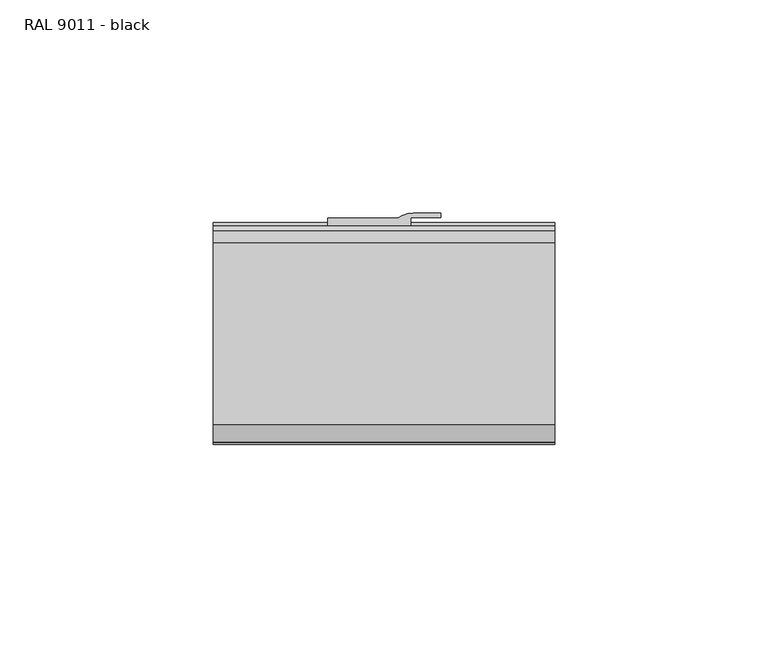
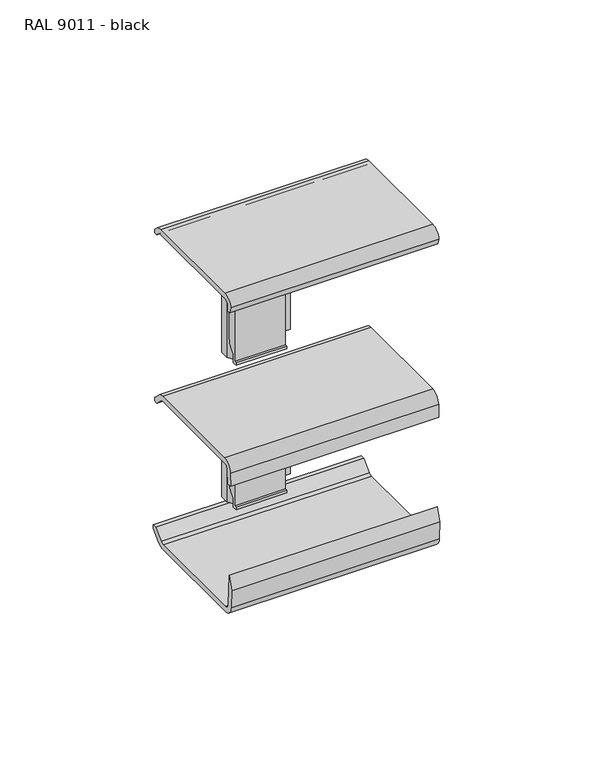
"""IFC4 building model written with IfcOpenShell, lengths in millimetres: cable carrier fitting geometry, Electrical_Installations_Hager_GBA-Coupling-Piece : RAL 9011 - black."""

from ifc_helpers import new_model, si_unit, point, frame, frame_2d, origin, place, context, project, spatial, polyline, circle_curve, trimmed, segment, composite_curve, outline, extrude, source, transform, mapped, element, save


def ral_9011_black_cd5e6a1d(model_context):
    return source(origin(), model_context, "Body", "SweptSolid", [
        extrude(outline(composite_curve([segment(polyline([(19.5299546, -13.203699), (19.5299546, -12.403699), (21.5299546, -12.403699), (21.5299546, -16.3274443)]), True, "CONTINUOUS"), segment(trimmed(circle_curve(frame_2d((18.0575569, -21.3974122)), 6.1450891), [point((21.5299546, -16.3274443))], [point((24.1862046, -20.9481933))], False, "CARTESIAN"), True, "CONTINUOUS"), segment(polyline([(24.1862046, -20.9481933), (24.1862046, -48.0333404)]), True, "CONTINUOUS"), segment(trimmed(circle_curve(frame_2d((19.0558691, -48.0333404)), 5.1303355), [point((24.1862046, -48.0333404))], [point((21.5299546, -52.5276972))], False, "CARTESIAN"), True, "CONTINUOUS"), segment(polyline([(21.5299546, -52.5276972), (21.5299546, -56.244324), (19.763323, -56.244324), (19.763323, -55.2391379), (20.7299546, -55.2391379), (20.7299546, -13.203699), (19.5299546, -13.203699)]), True, "CONTINUOUS")], self_intersect=False)), frame((-0.7125, 0.0, 0.0), z_axis=(1.0, 0.0, 0.0), x_axis=(0.0, 1.0, 0.0)), (0.0, 0.0, 1.0), 19.5),
        extrude(outline(composite_curve([segment(polyline([(-0.7125, 29.3862046), (15.6888516, 29.3862046)]), True, "CONTINUOUS"), segment(trimmed(circle_curve(frame_2d((19.3875, 24.2862046)), 6.3), [point((15.6888516, 29.3862046))], [point((19.3875, 30.5862046))], False, "CARTESIAN"), True, "CONTINUOUS"), segment(polyline([(19.3875, 30.5862046), (25.7875, 30.5862046), (25.7875, 29.5862046), (18.7875, 29.5862046), (18.7875, 26.0862046), (17.5173294, 23.8862046), (16.234474, 23.8862046), (16.234474, 26.0862046), (1.791584, 26.0862046), (1.791584, 23.8862046), (0.5576706, 23.8862046), (-0.7125, 26.0862046), (-0.7125, 29.3862046)]), True, "CONTINUOUS")], self_intersect=False)), frame((0.0, 0.0, -56.781824), z_axis=(0.0, 0.0, 1.0), x_axis=(1.0, 0.0, 0.0)), (0.0, 0.0, 1.0), 45.0),
        extrude(outline(composite_curve([segment(polyline([(19.5299546, 45.459949), (19.5299546, 46.259949), (21.5299546, 46.259949), (21.5299546, 42.3362036)]), True, "CONTINUOUS"), segment(trimmed(circle_curve(frame_2d((18.0575569, 37.2662357)), 6.1450891), [point((21.5299546, 42.3362036))], [point((24.1862046, 37.7154546))], False, "CARTESIAN"), True, "CONTINUOUS"), segment(polyline([(24.1862046, 37.7154546), (24.1862046, 10.6303075)]), True, "CONTINUOUS"), segment(trimmed(circle_curve(frame_2d((19.0558691, 10.6303075)), 5.1303355), [point((24.1862046, 10.6303075))], [point((21.5299546, 6.1359507))], False, "CARTESIAN"), True, "CONTINUOUS"), segment(polyline([(21.5299546, 6.1359507), (21.5299546, 2.419324), (19.763323, 2.419324), (19.763323, 3.42451), (20.7299546, 3.42451), (20.7299546, 45.459949), (19.5299546, 45.459949)]), True, "CONTINUOUS")], self_intersect=False)), frame((-0.7125, 0.0, 0.0), z_axis=(1.0, 0.0, 0.0), x_axis=(0.0, 1.0, 0.0)), (0.0, 0.0, 1.0), 19.5),
        extrude(outline(composite_curve([segment(polyline([(-0.7125, 29.3862046), (15.6888516, 29.3862046)]), True, "CONTINUOUS"), segment(trimmed(circle_curve(frame_2d((19.3875, 24.2862046)), 6.3), [point((15.6888516, 29.3862046))], [point((19.3875, 30.5862046))], False, "CARTESIAN"), True, "CONTINUOUS"), segment(polyline([(19.3875, 30.5862046), (25.7875, 30.5862046), (25.7875, 29.5862046), (18.7875, 29.5862046), (18.7875, 26.0862046), (17.5173294, 23.8862046), (16.234474, 23.8862046), (16.234474, 26.0862046), (1.791584, 26.0862046), (1.791584, 23.8862046), (0.5576706, 23.8862046), (-0.7125, 26.0862046), (-0.7125, 29.3862046)]), True, "CONTINUOUS")], self_intersect=False)), frame((0.0, 0.0, 1.881824), z_axis=(0.0, 0.0, 1.0), x_axis=(1.0, 0.0, 0.0)), (0.0, 0.0, 1.0), 45.0),
        extrude(outline(composite_curve([segment(trimmed(circle_curve(frame_2d((-18.8633998, -6.3705402)), 2.0393871), [point((-18.8633998, -4.331153))], [point((-20.899992, -6.2638069))], True, "CARTESIAN"), True, "CONTINUOUS"), segment(polyline([(-20.899992, -6.2638069), (-21.1703996, -11.4234908), (-23.1676586, -11.3188188), (-22.8959309, -6.1339451)]), True, "CONTINUOUS"), segment(trimmed(circle_curve(frame_2d((-18.8886242, -6.3439592)), 4.0128062), [point((-22.8959309, -6.1339451))], [point((-18.8886242, -2.331153))], False, "CARTESIAN"), True, "CONTINUOUS"), segment(polyline([(-18.8886242, -2.331153), (22.3397777, -2.331153)]), True, "CONTINUOUS"), segment(trimmed(circle_curve(frame_2d((22.3397777, -6.0464007)), 3.7152477), [point((22.3397777, -2.331153))], [point((24.9668545, -3.4193239))], False, "CARTESIAN"), True, "CONTINUOUS"), segment(polyline([(24.9668545, -3.4193239), (27.2562917, -5.7087611)]), True, "CONTINUOUS"), segment(trimmed(circle_curve(frame_2d((26.5465978, -6.418455)), 1.0036587), [point((27.2562917, -5.7087611))], [point((27.5502565, -6.418455))], False, "CARTESIAN"), True, "CONTINUOUS"), segment(polyline([(27.5502565, -6.418455), (27.5502565, -7.331153), (26.0502565, -7.331153), (23.6221118, -4.9030083)]), True, "CONTINUOUS"), segment(trimmed(circle_curve(frame_2d((22.241531, -6.2835892)), 1.9524362), [point((23.6221118, -4.9030083))], [point((22.241531, -4.331153))], True, "CARTESIAN"), True, "CONTINUOUS"), segment(polyline([(22.241531, -4.331153), (-18.8633998, -4.331153)]), True, "CONTINUOUS")], self_intersect=False)), frame((-27.5, 0.0, 0.0), z_axis=(1.0, 0.0, 0.0), x_axis=(0.0, 1.0, 0.0)), (0.0, 0.0, 1.0), 80.0),
        extrude(outline(composite_curve([segment(trimmed(circle_curve(frame_2d((23.5218294, 60.7)), 2.0), [point((24.936043, 62.1142136))], [point((23.5218294, 62.7))], True, "CARTESIAN"), True, "CONTINUOUS"), segment(polyline([(23.5218294, 62.7), (-19.1007768, 62.7)]), True, "CONTINUOUS"), segment(trimmed(circle_curve(frame_2d((-19.1007768, 60.6971035)), 2.0028965), [point((-19.1007768, 62.7))], [point((-21.1036733, 60.6971035))], True, "CARTESIAN"), True, "CONTINUOUS"), segment(polyline([(-21.1036733, 60.6971035), (-21.2133917, 58.6035509), (-22.3130457, 58.6611813), (-23.0757368, 61.1159668)]), True, "CONTINUOUS"), segment(trimmed(circle_curve(frame_2d((-19.1163293, 60.720935)), 3.979065), [point((-23.0757368, 61.1159668))], [point((-19.1163293, 64.7))], False, "CARTESIAN"), True, "CONTINUOUS"), segment(polyline([(-19.1163293, 64.7), (23.5218294, 64.7)]), True, "CONTINUOUS"), segment(trimmed(circle_curve(frame_2d((23.5218294, 60.7)), 4.0), [point((23.5218294, 64.7))], [point((26.3502565, 63.5284271))], False, "CARTESIAN"), True, "CONTINUOUS"), segment(polyline([(26.3502565, 63.5284271), (27.5502565, 62.3284271), (27.5502565, 61.0), (26.0502565, 61.0), (24.936043, 62.1142136)]), True, "CONTINUOUS")], self_intersect=False)), frame((-27.5, 0.0, 0.0), z_axis=(1.0, 0.0, 0.0), x_axis=(0.0, 1.0, 0.0)), (0.0, 0.0, 1.0), 80.0),
        extrude(outline(composite_curve([segment(polyline([(26.903365, -58.3), (28.403365, -58.3), (28.403365, -59.6284271), (24.703365, -63.3284271)]), True, "CONTINUOUS"), segment(trimmed(circle_curve(frame_2d((21.8749378, -60.5)), 4.0), [point((24.703365, -63.3284271))], [point((21.8749378, -64.5))], False, "CARTESIAN"), True, "CONTINUOUS"), segment(polyline([(21.8749378, -64.5), (-19.4152919, -64.5)]), True, "CONTINUOUS"), segment(trimmed(circle_curve(frame_2d((-19.4152919, -60.6150555)), 3.8849445), [point((-19.4152919, -64.5))], [point((-23.3002364, -60.6150555))], False, "CARTESIAN"), True, "CONTINUOUS"), segment(polyline([(-23.3002364, -60.6150555), (-23.6789386, -53.3889857), (-21.9407516, -48.3409241), (-21.3036733, -60.4971035)]), True, "CONTINUOUS"), segment(trimmed(circle_curve(frame_2d((-19.3007768, -60.4971035)), 2.0028965), [point((-21.3036733, -60.4971035))], [point((-19.3007768, -62.5))], True, "CARTESIAN"), True, "CONTINUOUS"), segment(polyline([(-19.3007768, -62.5), (21.8749378, -62.5)]), True, "CONTINUOUS"), segment(trimmed(circle_curve(frame_2d((21.8749378, -60.5)), 2.0), [point((21.8749378, -62.5))], [point((23.2891514, -61.9142136))], True, "CARTESIAN"), True, "CONTINUOUS"), segment(polyline([(23.2891514, -61.9142136), (26.903365, -58.3)]), True, "CONTINUOUS")], self_intersect=False)), frame((-27.5, 0.0, 0.0), z_axis=(1.0, 0.0, 0.0), x_axis=(0.0, 1.0, 0.0)), (0.0, 0.0, 1.0), 80.0),
    ])


if __name__ == "__main__":
    model = new_model("IFC4")
    model_context = context("Model", 3, world=origin())
    ifc_project = project(units=[si_unit("LENGTHUNIT", "METRE", prefix="MILLI")], contexts=[model_context])
    site = spatial("IfcSite", under=ifc_project)
    building = spatial("IfcBuilding", under=site)
    placement = place(None, origin())
    ral_9011_black_shape = ral_9011_black_cd5e6a1d(model_context)
    element("IfcCableCarrierFitting", 1, ObjectType="Electrical_Installations_Hager_GBA-Coupling-Piece : RAL 9011 - black", at=placement, inside=building, context=model_context, shape_type="MappedRepresentation", body=[
        mapped(ral_9011_black_shape, transform((0.0, 0.0, 0.0), x_axis=(1.0, 0.0, 0.0), y_axis=(0.0, 1.0, 0.0), z_axis=(0.0, 0.0, 1.0))),
    ])
    save(model, "model.ifc")
